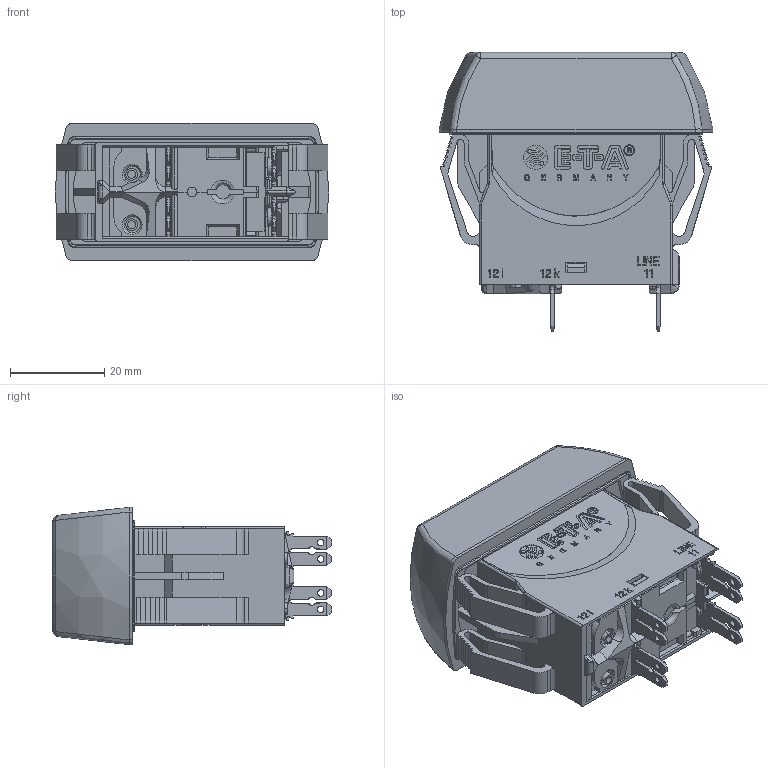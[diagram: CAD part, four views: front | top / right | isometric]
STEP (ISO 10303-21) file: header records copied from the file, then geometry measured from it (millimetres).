
FILE_DESCRIPTION((''),'2;1');
FILE_NAME('DUMMY-3120-N32E-P7','2019-08-07T11:13:16',('wschmidt'),(''),'CREO PARAMETRIC BY PTC INC, 2017260','CREO PARAMETRIC BY PTC INC, 2017260','');
FILE_SCHEMA(('AUTOMOTIVE_DESIGN { 1 0 10303 214 1 1 1 1 }'));
Products named in the file (1): DUMMY-3120-N32E-P7
Bounding box: 58.2 x 59.3 x 29.2 mm (x, y, z)
Volume: 37240.5 mm3; surface area: 28365.6 mm2
Topology: 1 solids, 1 shells, 2213 faces, 5939 edges, 3803 vertices
Faces by surface type: plane 1183, cylinder 403, extrusion 306, bspline 194, sphere 56, torus 49, cone 22
Entity records: 83795 total; most frequent: CARTESIAN_POINT 30736, ORIENTED_EDGE 11868, DIRECTION 9108, EDGE_CURVE 5934, VECTOR 4136, LINE 3830, VERTEX_POINT 3803, AXIS2_PLACEMENT_3D 2486
